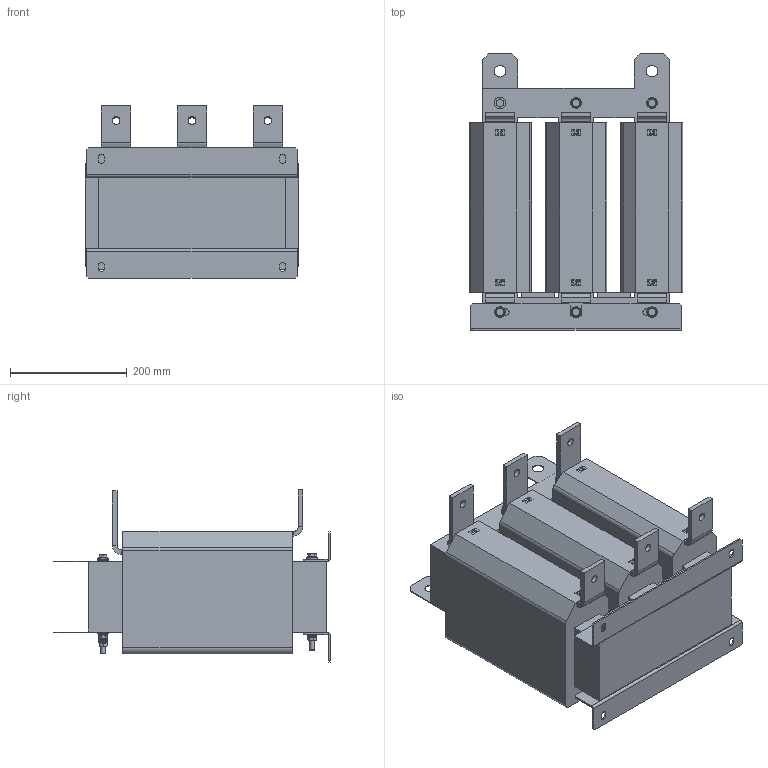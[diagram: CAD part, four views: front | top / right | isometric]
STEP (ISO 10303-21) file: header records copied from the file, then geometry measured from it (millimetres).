
FILE_DESCRIPTION(/* description */ ('raw material description'),/* implementation_level */ '2;1');
FILE_NAME(/* name */ 'P:\Construction\Filter_Marketing\RWK\RWK3044_RWK3062\RWK3044\RWK3044-800-99-E0XXX.stp',/* time_stamp */ '2018-08-27T11:08:57+02:00',/* author */ ('Erika.Jenzer'),/* organization */ ('Schaffner EMV AG'),/* preprocessor_version */ 'ST-DEVELOPER v16.5',/* originating_system */ 'Autodesk Inventor 2017',/* authorisation */ '');
FILE_SCHEMA (('AUTOMOTIVE_DESIGN { 1 0 10303 214 3 1 1 }'));
Length unit declared in the file: millimetre
Products named in the file (1): RWK3044-800-99-E0XXX
Bounding box: 366 x 473.5 x 294.8 mm (x, y, z)
Volume: 23508353.7 mm3; surface area: 1006389.4 mm2
Topology: 39 solids, 50 shells, 1054 faces, 2585 edges, 1701 vertices
Faces by surface type: plane 725, cylinder 163, cone 109, bspline 50, torus 7
Full cylindrical faces by diameter (mm): 8 x19, 8.2 x6, 8.4 x14, 9.9 x5, 10.5 x3, 11.4 x6, 13 x1, 13.5 x6, 16 x12, 18 x5, 20 x4
Entity records: 30919 total; most frequent: CARTESIAN_POINT 6159, ORIENTED_EDGE 4866, DIRECTION 4568, EDGE_CURVE 2426, LINE 1706, VECTOR 1706, VERTEX_POINT 1660, AXIS2_PLACEMENT_3D 1431
